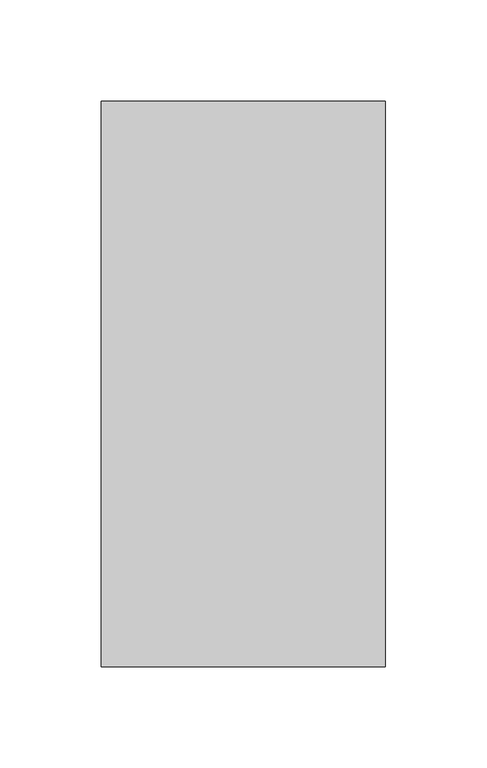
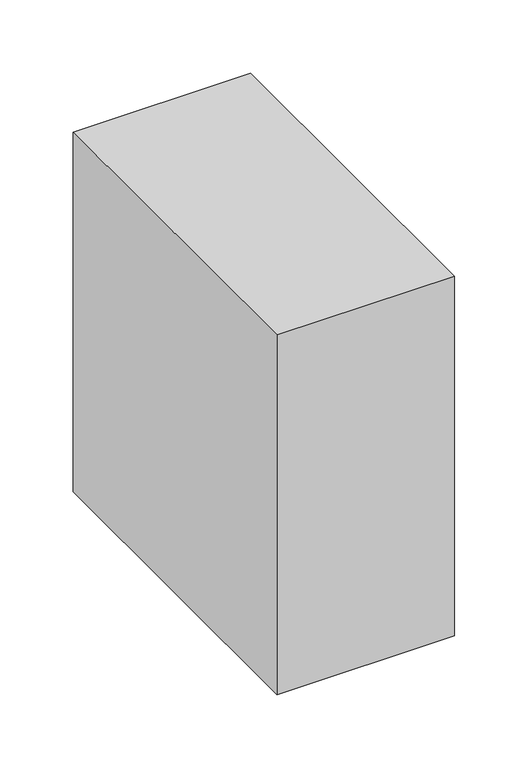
"""IFC4 building model written with IfcOpenShell, lengths in millimetres: proxy geometry."""

import ifcopenshell
import ifcopenshell.guid

model = None  # the IFC model being written
_history = None  # IfcOwnerHistory: only IFC2X3 demands one
_inside = {}  # id of a spatial element -> (the spatial element, [elements in it])
_under = {}  # id of a project, library or spatial element -> (it, [spatial elements below it])
_declared = {}  # id of a project -> (the project, [libraries it declares])
_typed = {}  # id of a type object -> (the type object, [elements of that type])
_made_of = {}  # id of a material, layer set ... -> (it, [elements and type objects made of it])


def new_model(schema):
    """Start an empty IFC model of exactly this schema.

    Asked for "IFC4X3", IfcOpenShell would pick the latest addendum, in which some entities
    have other attributes; the version numbers below select the first issue.
    IFC2X3 requires an IfcOwnerHistory on every rooted entity: one is made here for all.
    """
    global model, _history
    if schema == "IFC4X3":
        model = ifcopenshell.file(schema_version=(4, 3, 0, 0))
    else:
        model = ifcopenshell.file(schema=schema)
    _inside.clear()
    _under.clear()
    _declared.clear()
    _typed.clear()
    _made_of.clear()
    _history = None
    if model.schema == "IFC2X3":
        org = make("IfcOrganization", Name="unknown")
        user = make(
            "IfcPersonAndOrganization",
            ThePerson=make("IfcPerson", FamilyName="unknown"),
            TheOrganization=org,
        )
        app = make(
            "IfcApplication",
            ApplicationDeveloper=org,
            Version="unknown",
            ApplicationFullName="unknown",
            ApplicationIdentifier="unknown",
        )
        _history = make(
            "IfcOwnerHistory",
            OwningUser=user,
            OwningApplication=app,
            ChangeAction="ADDED",
            CreationDate=0,
        )
    return model


def make(cls, **values):
    """One entity of the class cls with the attributes given. An attribute that is None is left unset."""
    return model.create_entity(
        cls, **{name: value for name, value in values.items() if value is not None}
    )


def rooted(cls, **values):
    """An entity with a GlobalId (a new one), such as an element, a storey or a relation."""
    return make(cls, GlobalId=ifcopenshell.guid.new(), OwnerHistory=_history, **values)


def si_unit(unit_type, name, prefix=None):
    """IfcSIUnit, for example si_unit("LENGTHUNIT", "METRE", prefix="MILLI")."""
    return make("IfcSIUnit", UnitType=unit_type, Prefix=prefix, Name=name)


def assignment(units):
    """IfcUnitAssignment: the units of a project."""
    return None if units is None else make("IfcUnitAssignment", Units=units)


def point(xyz):
    """IfcCartesianPoint."""
    return None if xyz is None else make("IfcCartesianPoint", Coordinates=xyz)


def direction(xyz):
    """IfcDirection."""
    return None if xyz is None else make("IfcDirection", DirectionRatios=xyz)


def frame(location, z_axis=None, x_axis=None):
    """IfcAxis2Placement3D, a coordinate frame: its origin and axes. An axis left out is left unset."""
    return make(
        "IfcAxis2Placement3D",
        Location=point(location),
        Axis=direction(z_axis),
        RefDirection=direction(x_axis),
    )


def origin():
    """The frame at (0, 0, 0) with its axes left unset."""
    return frame((0.0, 0.0, 0.0))


def place(relative_to, where):
    """IfcLocalPlacement: puts the frame where relative to a parent placement (None: the world)."""
    return make(
        "IfcLocalPlacement", PlacementRelTo=relative_to, RelativePlacement=where
    )


def context(
    kind, dimensions, precision=None, world=None, true_north=None, identifier=None
):
    """IfcGeometricRepresentationContext, for example the 3D "Model" context."""
    return make(
        "IfcGeometricRepresentationContext",
        ContextIdentifier=identifier,
        ContextType=kind,
        CoordinateSpaceDimension=dimensions,
        Precision=precision,
        WorldCoordinateSystem=world,
        TrueNorth=true_north,
    )


def project(units=None, contexts=None):
    """IfcProject with its units and contexts."""
    return rooted(
        "IfcProject",
        Name="project",
        RepresentationContexts=contexts,
        UnitsInContext=assignment(units),
    )


def spatial(cls, under=None, at=None, **own):
    """A site, building, storey or space (cls), placed at a placement, below another one or the project."""
    s = rooted(cls, ObjectPlacement=at, **own)
    if under is not None:
        _under.setdefault(under.id(), (under, []))[1].append(s)
    return s


def polyline(points):
    """IfcPolyline through the points."""
    return make("IfcPolyline", Points=[point(p) for p in points])


def outline(outer, holes=None, kind="AREA"):
    """IfcArbitraryClosedProfileDef: a profile drawn as a closed curve; with holes, ...WithVoids."""
    if holes is None:
        return make("IfcArbitraryClosedProfileDef", ProfileType=kind, OuterCurve=outer)
    return make(
        "IfcArbitraryProfileDefWithVoids",
        ProfileType=kind,
        OuterCurve=outer,
        InnerCurves=holes,
    )


def extrude(swept, where, along, depth):
    """IfcExtrudedAreaSolid: the profile swept, set in the frame where, extruded along a direction by depth."""
    return make(
        "IfcExtrudedAreaSolid",
        SweptArea=swept,
        Position=where,
        ExtrudedDirection=direction(along),
        Depth=depth,
    )


def shape(context_of_items, identifier, shape_type, items):
    """IfcShapeRepresentation: the items that make up one representation, for example the "Body"."""
    return make(
        "IfcShapeRepresentation",
        ContextOfItems=context_of_items,
        RepresentationIdentifier=identifier,
        RepresentationType=shape_type,
        Items=items,
    )


def source(mapping_origin, context_of_items, identifier, shape_type, items):
    """IfcRepresentationMap: a shape defined once, which mapped items show again and again."""
    return make(
        "IfcRepresentationMap",
        MappingOrigin=mapping_origin,
        MappedRepresentation=shape(context_of_items, identifier, shape_type, items),
    )


def transform(
    local_origin,
    x_axis=None,
    y_axis=None,
    z_axis=None,
    scale=None,
    scale2=None,
    scale3=None,
    uniform=True,
):
    """IfcCartesianTransformationOperator3D, or its non-uniform kind. x_axis, y_axis, z_axis: its Axis1, 2, 3."""
    if uniform:
        return make(
            "IfcCartesianTransformationOperator3D",
            Axis1=direction(x_axis),
            Axis2=direction(y_axis),
            LocalOrigin=point(local_origin),
            Scale=scale,
            Axis3=direction(z_axis),
        )
    return make(
        "IfcCartesianTransformationOperator3DnonUniform",
        Axis1=direction(x_axis),
        Axis2=direction(y_axis),
        LocalOrigin=point(local_origin),
        Scale=scale,
        Axis3=direction(z_axis),
        Scale2=scale2,
        Scale3=scale3,
    )


def mapped(mapping_source, mapping_target):
    """IfcMappedItem: shows the shape of a source again, moved by a transform."""
    return make(
        "IfcMappedItem", MappingSource=mapping_source, MappingTarget=mapping_target
    )


def made_of(thing, what):
    """Note that an element or type object is made of a material, layer set ...; save() writes the relation."""
    if what is not None:
        _made_of.setdefault(what.id(), (what, []))[1].append(thing)
    return thing


def element(
    cls,
    number,
    at=None,
    inside=None,
    cuts=None,
    type_object=None,
    material=None,
    context=None,
    identifier="Body",
    shape_type=None,
    held_by="IfcProductDefinitionShape",
    body=None,
    shapes=None,
    **own,
):
    """One element of the class cls, such as IfcWall. Its Tag is "e" and its number.

    at: its placement. inside: the storey or other place that contains it. cuts: it is an
    opening in that element (IfcRelVoidsElement). A single representation is given by context,
    identifier, shape_type and body (its items); several are given by shapes. held_by: the class
    of the entity that holds the representations. save() writes the other relations.
    """
    e = rooted(cls, Tag="e%d" % number, ObjectPlacement=at, **own)
    if body is not None:
        shapes = [shape(context, identifier, shape_type, body)]
    if shapes is not None:
        e.Representation = make(held_by, Representations=shapes)
    if inside is not None:
        _inside.setdefault(inside.id(), (inside, []))[1].append(e)
    if cuts is not None:
        rooted(
            "IfcRelVoidsElement", RelatingBuildingElement=cuts, RelatedOpeningElement=e
        )
    if type_object is not None:
        _typed.setdefault(type_object.id(), (type_object, []))[1].append(e)
    return made_of(e, material)


def aggregate(whole, parts):
    """IfcRelAggregates: a whole, such as a stair, and the parts it consists of."""
    return rooted("IfcRelAggregates", RelatingObject=whole, RelatedObjects=parts)


def save(model, path):
    """Write the relations noted so far, then the file.

    IfcRelAggregates (storeys below a building ...), IfcRelContainedInSpatialStructure (elements
    in a storey), IfcRelDefinesByType, IfcRelAssociatesMaterial and IfcRelDeclares: one each for
    every whole, place, type object, material and project.
    """
    for whole, parts in _under.values():
        aggregate(whole, parts)
    for where, things in _inside.values():
        rooted(
            "IfcRelContainedInSpatialStructure",
            RelatedElements=things,
            RelatingStructure=where,
        )
    for kind, things in _typed.values():
        rooted("IfcRelDefinesByType", RelatedObjects=things, RelatingType=kind)
    for what, things in _made_of.values():
        rooted("IfcRelAssociatesMaterial", RelatedObjects=things, RelatingMaterial=what)
    for by, libraries in _declared.values():
        rooted("IfcRelDeclares", RelatingContext=by, RelatedDefinitions=libraries)
    model.write(path)


def structural_framing_0c08fe81(model_context):
    return source(origin(), model_context, "Body", "SweptSolid", [
        extrude(outline(polyline([(70.0, -139.35), (-70.0, -139.35), (-70.0, 139.35), (70.0, 139.35), (70.0, -139.35)])), frame((0.0, 0.0, -300.0), z_axis=(0.0, 0.0, 1.0), x_axis=(1.0, 0.0, 0.0)), (0.0, 0.0, 1.0), 300.0),
    ])


if __name__ == "__main__":
    model = new_model("IFC4")
    model_context = context("Model", 3, world=origin())
    ifc_project = project(units=[si_unit("LENGTHUNIT", "METRE", prefix="MILLI")], contexts=[model_context])
    site = spatial("IfcSite", under=ifc_project)
    building = spatial("IfcBuilding", under=site)
    placement = place(None, origin())
    structural_framing_shape = structural_framing_0c08fe81(model_context)
    element("IfcBuildingElementProxy", 1, Name="Structural Framing", at=placement, inside=building, context=model_context, shape_type="MappedRepresentation", body=[
        mapped(structural_framing_shape, transform((0.0, 0.0, 0.0), x_axis=(1.0, 0.0, 0.0), y_axis=(0.0, 1.0, 0.0), z_axis=(0.0, 0.0, 1.0))),
    ])
    save(model, "model.ifc")
